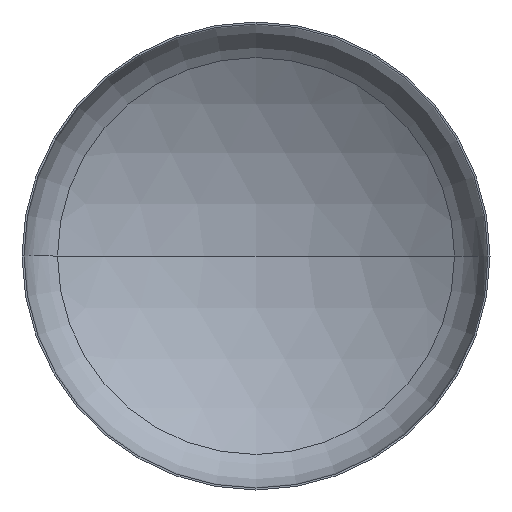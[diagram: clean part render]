
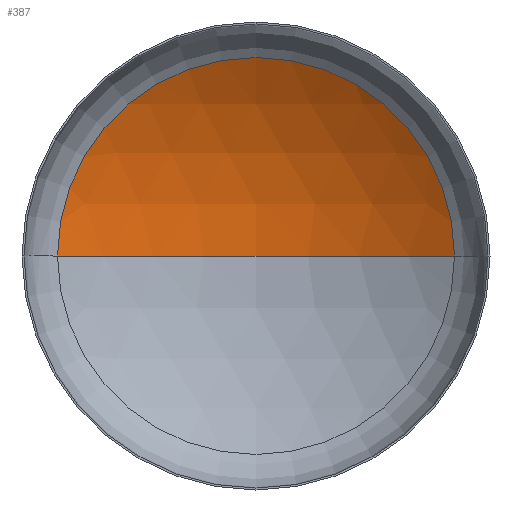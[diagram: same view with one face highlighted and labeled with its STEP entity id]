
A CAD part, front view. The second image highlights one B-rep face of the part: STEP entity #387.
In plain terms, the highlighted spherical face has radius 1520 mm.
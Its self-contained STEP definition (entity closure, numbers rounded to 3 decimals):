
#1 = AXIS2_PLACEMENT_3D ( 'NONE', #320, #148, #352 ) ;
#6 = AXIS2_PLACEMENT_3D ( 'NONE', #202, #400, #231 ) ;
#15 = AXIS2_PLACEMENT_3D ( 'NONE', #18, #17, #106 ) ;
#17 = DIRECTION ( 'NONE',  ( 0., -1., 0. ) ) ;
#18 = CARTESIAN_POINT ( 'NONE',  ( 0., 270.905, 0. ) ) ;
#32 = VERTEX_POINT ( 'NONE', #219 ) ;
#46 = CARTESIAN_POINT ( 'NONE',  ( 0., -1017.975, 0. ) ) ;
#74 = ORIENTED_EDGE ( 'NONE', *, *, #349, .F. ) ;
#77 = VERTEX_POINT ( 'NONE', #326 ) ;
#104 = ORIENTED_EDGE ( 'NONE', *, *, #372, .T. ) ;
#106 = DIRECTION ( 'NONE',  ( 1., 0., 0. ) ) ;
#107 = VERTEX_POINT ( 'NONE', #269 ) ;
#108 = AXIS2_PLACEMENT_3D ( 'NONE', #46, #377, #149 ) ;
#148 = DIRECTION ( 'NONE',  ( 0., 0., -1. ) ) ;
#149 = DIRECTION ( 'NONE',  ( -1., 0., 0. ) ) ;
#202 = CARTESIAN_POINT ( 'NONE',  ( 0., -1017.975, 0. ) ) ;
#219 = CARTESIAN_POINT ( 'NONE',  ( -805.724, 270.905, 0. ) ) ;
#228 = FACE_OUTER_BOUND ( 'NONE', #398, .T. ) ;
#231 = DIRECTION ( 'NONE',  ( 1., 0., 0. ) ) ;
#237 = CIRCLE ( 'NONE', #1, 1520. ) ;
#245 = CIRCLE ( 'NONE', #6, 1520. ) ;
#263 = CIRCLE ( 'NONE', #15, 805.724 ) ;
#269 = CARTESIAN_POINT ( 'NONE',  ( 805.724, 270.905, 0. ) ) ;
#305 = SPHERICAL_SURFACE ( 'NONE', #108, 1520. ) ;
#314 = EDGE_CURVE ( 'NONE', #107, #32, #263, .T. ) ;
#320 = CARTESIAN_POINT ( 'NONE',  ( 0., -1017.975, 0. ) ) ;
#326 = CARTESIAN_POINT ( 'NONE',  ( 0., 502.025, 0. ) ) ;
#341 = ORIENTED_EDGE ( 'NONE', *, *, #314, .T. ) ;
#349 = EDGE_CURVE ( 'NONE', #77, #32, #245, .T. ) ;
#352 = DIRECTION ( 'NONE',  ( -1., 0., 0. ) ) ;
#372 = EDGE_CURVE ( 'NONE', #77, #107, #237, .T. ) ;
#377 = DIRECTION ( 'NONE',  ( 0., 0., -1. ) ) ;
#387 = ADVANCED_FACE ( 'NONE', ( #228 ), #305, .F. ) ;
#398 = EDGE_LOOP ( 'NONE', ( #74, #104, #341 ) ) ;
#400 = DIRECTION ( 'NONE',  ( 0., 0., 1. ) ) ;
